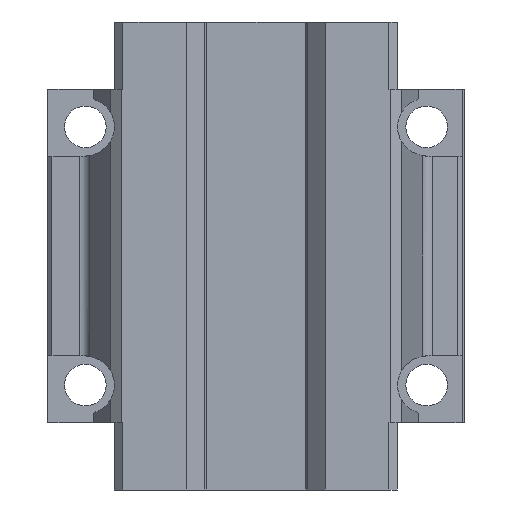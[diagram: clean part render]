
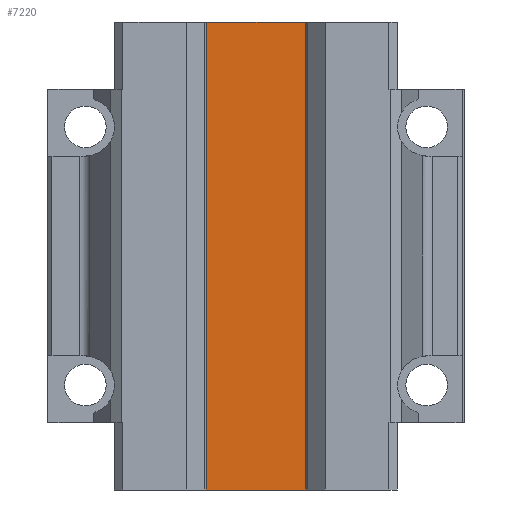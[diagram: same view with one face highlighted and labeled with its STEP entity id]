
A CAD part, front view. The second image highlights one B-rep face of the part: STEP entity #7220.
In plain terms, the highlighted planar face has unit normal (0, -1, 0).
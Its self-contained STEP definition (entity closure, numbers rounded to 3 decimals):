
#56 = CARTESIAN_POINT ( 'NONE',  ( -13.273, 0., -56.2 ) ) ;
#80 = DIRECTION ( 'NONE',  ( 0., 0., -1. ) ) ;
#136 = CARTESIAN_POINT ( 'NONE',  ( -13.273, 0., 56.2 ) ) ;
#162 = VERTEX_POINT ( 'NONE', #136 ) ;
#734 = CARTESIAN_POINT ( 'NONE',  ( -13.273, 0., -56.2 ) ) ;
#982 = VERTEX_POINT ( 'NONE', #3502 ) ;
#1102 = EDGE_LOOP ( 'NONE', ( #4876, #7432, #7026, #4629 ) ) ;
#1663 = PLANE ( 'NONE',  #6662 ) ;
#1838 = CARTESIAN_POINT ( 'NONE',  ( 13.271, 0., 56.2 ) ) ;
#2332 = DIRECTION ( 'NONE',  ( 0., 0., 1. ) ) ;
#2702 = VECTOR ( 'NONE', #2332, 1000. ) ;
#2742 = DIRECTION ( 'NONE',  ( 1., 0., 0. ) ) ;
#2780 = DIRECTION ( 'NONE',  ( 0., 1., 0. ) ) ;
#2856 = VERTEX_POINT ( 'NONE', #734 ) ;
#2929 = CARTESIAN_POINT ( 'NONE',  ( 13.271, 0., 56.2 ) ) ;
#3040 = EDGE_CURVE ( 'NONE', #162, #3548, #6483, .T. ) ;
#3061 = LINE ( 'NONE', #2929, #2702 ) ;
#3151 = FACE_OUTER_BOUND ( 'NONE', #1102, .T. ) ;
#3502 = CARTESIAN_POINT ( 'NONE',  ( 13.271, 0., -56.2 ) ) ;
#3548 = VERTEX_POINT ( 'NONE', #1838 ) ;
#3628 = EDGE_CURVE ( 'NONE', #162, #2856, #5602, .T. ) ;
#3900 = VECTOR ( 'NONE', #2742, 1000. ) ;
#4415 = EDGE_CURVE ( 'NONE', #982, #3548, #3061, .T. ) ;
#4629 = ORIENTED_EDGE ( 'NONE', *, *, #4415, .T. ) ;
#4825 = EDGE_CURVE ( 'NONE', #2856, #982, #5091, .T. ) ;
#4876 = ORIENTED_EDGE ( 'NONE', *, *, #3040, .F. ) ;
#5091 = LINE ( 'NONE', #5624, #3900 ) ;
#5515 = VECTOR ( 'NONE', #80, 1000. ) ;
#5602 = LINE ( 'NONE', #56, #5515 ) ;
#5624 = CARTESIAN_POINT ( 'NONE',  ( -13.62, 0., -56.2 ) ) ;
#5656 = CARTESIAN_POINT ( 'NONE',  ( -13.62, 0., 56.2 ) ) ;
#6483 = LINE ( 'NONE', #7195, #7032 ) ;
#6662 = AXIS2_PLACEMENT_3D ( 'NONE', #5656, #2780, #6800 ) ;
#6800 = DIRECTION ( 'NONE',  ( 0., 0., 1. ) ) ;
#7026 = ORIENTED_EDGE ( 'NONE', *, *, #4825, .T. ) ;
#7032 = VECTOR ( 'NONE', #7150, 1000. ) ;
#7150 = DIRECTION ( 'NONE',  ( 1., 0., 0. ) ) ;
#7195 = CARTESIAN_POINT ( 'NONE',  ( 0., 0., 56.2 ) ) ;
#7220 = ADVANCED_FACE ( 'NONE', ( #3151 ), #1663, .F. ) ;
#7432 = ORIENTED_EDGE ( 'NONE', *, *, #3628, .T. ) ;
